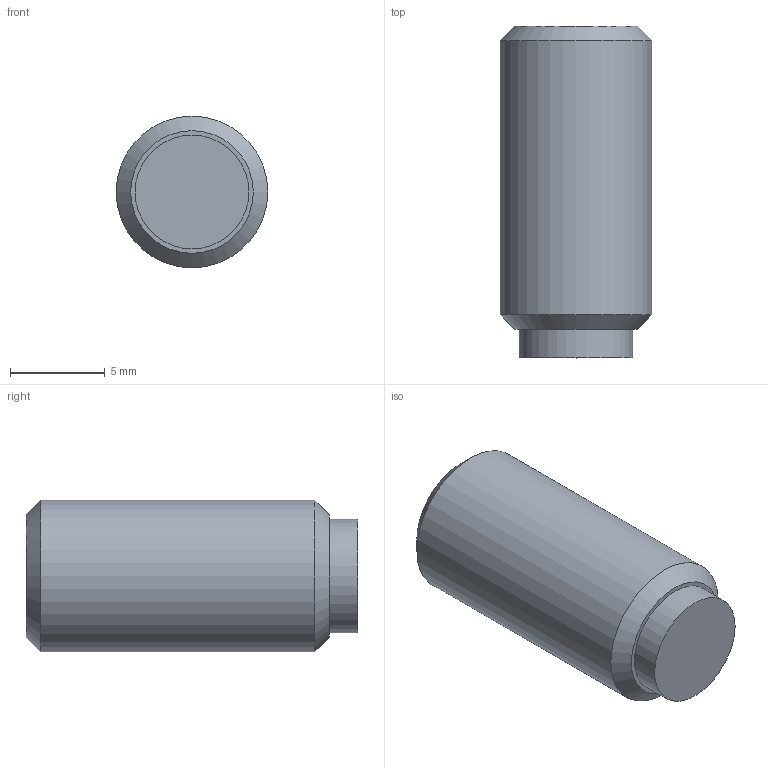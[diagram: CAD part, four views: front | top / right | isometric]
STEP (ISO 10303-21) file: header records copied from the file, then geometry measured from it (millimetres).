
FILE_DESCRIPTION( ( 'STEP AP203' ), '1' );
FILE_NAME( 'C:/Temp/Ganter_Step_05_03_2020/data/3_2/gn913_3/Grub screw GN 913.3-M8-16-MS.stp', '2020-03-13T05:35:50', ( 'License CC BY-ND 4.0' ), ( 'CADENAS' ), ' ', 'PARTsolutions', ' ' );
FILE_SCHEMA( ( 'CONFIG_CONTROL_DESIGN' ) );
Length unit declared in the file: millimetre
Products named in the file (1): _Grub screw GN 913.3-M8-16-MS
Bounding box: 8 x 17.5 x 8 mm (x, y, z)
Volume: 763.5 mm3; surface area: 576.1 mm2
Topology: 1 solids, 1 shells, 14 faces, 28 edges, 18 vertices
Faces by surface type: plane 10, cylinder 2, cone 2
Full cylindrical faces by diameter (mm): 6 x1, 8 x1
Entity records: 386 total; most frequent: DIRECTION 60, CARTESIAN_POINT 57, ORIENTED_EDGE 48, EDGE_CURVE 24, AXIS2_PLACEMENT_3D 21, EDGE_LOOP 20, VERTEX_POINT 18, LINE 18
